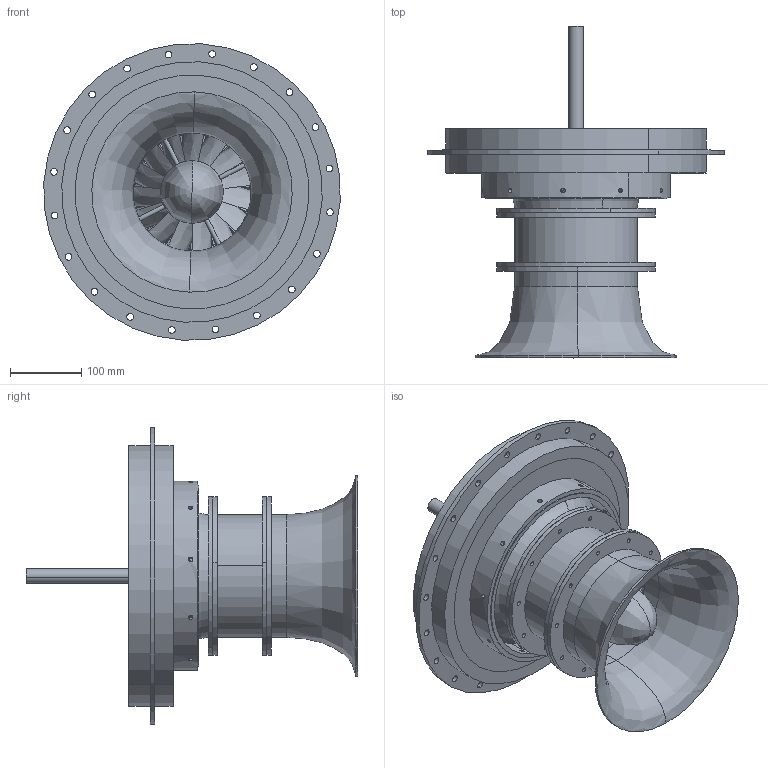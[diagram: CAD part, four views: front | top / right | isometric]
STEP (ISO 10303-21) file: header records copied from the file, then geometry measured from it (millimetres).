
FILE_DESCRIPTION(('CATIA V5 STEP Exchange'),'2;1');
FILE_NAME('C:\Users\Jonathan\Desktop\POLYTECHNIQUE\Hiver 2012\AER3900 - Projet intégrateur III\Entré d''air\CATIA\Axial-Centrifugal Compressor.stp','2014-11-26T17:16:33+00:00',('none'),('none'),'CATIA Version 5 Release 20 GA (IN-10)','CATIA V5 STEP AP203','none');
FILE_SCHEMA(('CONFIG_CONTROL_DESIGN'));
Products named in the file (1): Assemblage Entrée d'air
Assembly tree (9 placements, depth 2):
  Assemblage Entrée d'air
    #58
    #4484
    #8134
    #12346
    #36068
    #38054
    #45534
    #46309
    #46880
Bounding box: 416.71 x 466.59 x 416.71 mm (x, y, z)
Volume: 5090930.2 mm3; surface area: 1986575.4 mm2
Topology: 20 solids, 22 shells, 885 faces, 2539 edges, 1603 vertices
Faces by surface type: cylinder 398, plane 155, bspline 135, extrusion 100, torus 59, sphere 20, revolution 16, cone 2
Entity records: 47102 total; most frequent: CARTESIAN_POINT 28239, ORIENTED_EDGE 4938, EDGE_CURVE 2311, DIRECTION 1980, VERTEX_POINT 1485, EDGE_LOOP 1198, B_SPLINE_CURVE_WITH_KNOTS 1123, AXIS2_PLACEMENT_3D 1020
